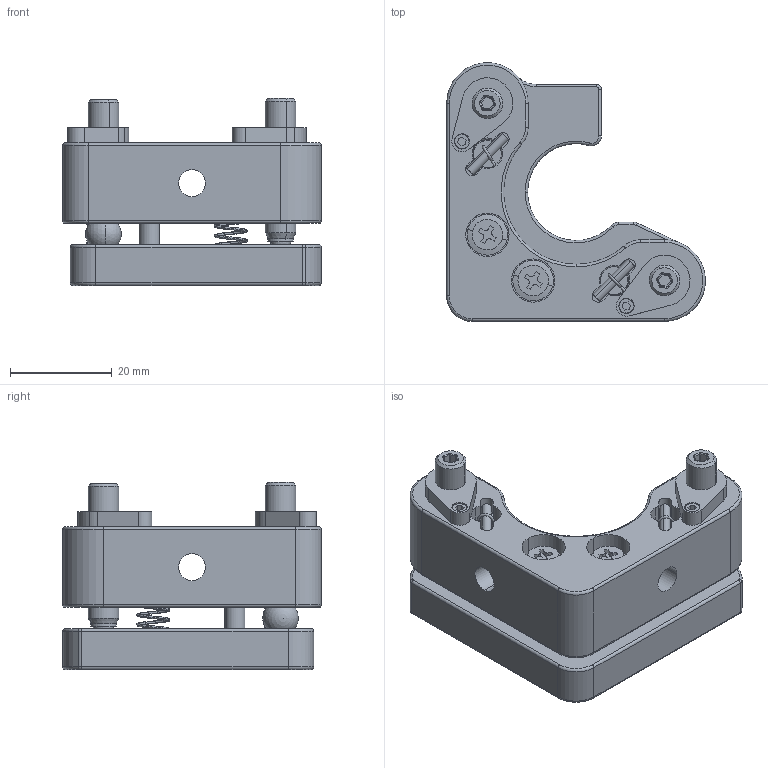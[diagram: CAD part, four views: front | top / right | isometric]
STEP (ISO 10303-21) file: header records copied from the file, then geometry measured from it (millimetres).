
FILE_DESCRIPTION (( 'STEP AP203' ), '1' );
FILE_NAME ('M-TNC-08L-FEC.STEP', '2020-07-09T08:04:00', ( '匠星' ), ( '' ), 'SwSTEP 2.0', 'SolidWorks 2019', '' );
FILE_SCHEMA (( 'CONFIG_CONTROL_DESIGN' ));
Length unit declared in the file: millimetre
Products named in the file (2): M-TNC-08L-FEC
Bounding box: 50.8 x 50.8 x 36.74 mm (x, y, z)
Surface area: 15445.6 mm2 (no closed solid volume)
Topology: 0 solids, 21 shells, 669 faces, 1577 edges, 964 vertices
Faces by surface type: cylinder 313, plane 191, torus 81, cone 56, sphere 22, bspline 6
Entity records: 23912 total; most frequent: CARTESIAN_POINT 8312, DIRECTION 3489, ORIENTED_EDGE 3074, EDGE_CURVE 1540, AXIS2_PLACEMENT_3D 1402, VERTEX_POINT 957, EDGE_LOOP 743, CIRCLE 737
